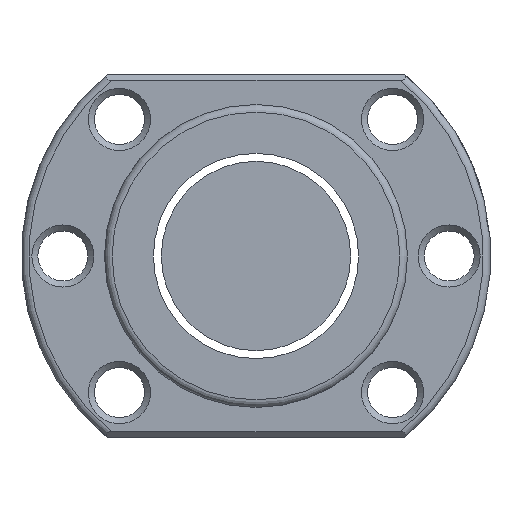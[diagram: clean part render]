
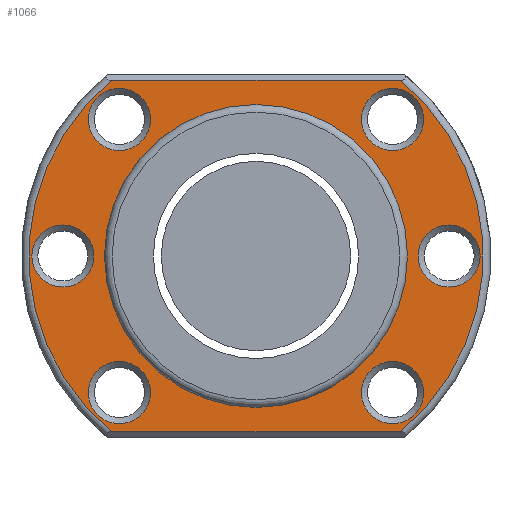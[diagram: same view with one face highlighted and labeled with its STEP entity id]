
A CAD part, left-side view. The second image highlights one B-rep face of the part: STEP entity #1066.
In plain terms, the highlighted planar face has unit normal (-1, 0, 0).
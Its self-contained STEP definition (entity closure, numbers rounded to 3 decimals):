
#29 = CARTESIAN_POINT ( 'NONE',  ( -45., 0., 0. ) ) ;
#51 = DIRECTION ( 'NONE',  ( 0., 0., 1. ) ) ;
#105 = CARTESIAN_POINT ( 'NONE',  ( -45., 0., -20. ) ) ;
#116 = VECTOR ( 'NONE', #2943, 1000. ) ;
#117 = ORIENTED_EDGE ( 'NONE', *, *, #1404, .T. ) ;
#120 = CARTESIAN_POINT ( 'NONE',  ( -45., 18.031, 22.131 ) ) ;
#122 = AXIS2_PLACEMENT_3D ( 'NONE', #2732, #1815, #3008 ) ;
#167 = EDGE_LOOP ( 'NONE', ( #817 ) ) ;
#197 = EDGE_LOOP ( 'NONE', ( #1890 ) ) ;
#250 = CARTESIAN_POINT ( 'NONE',  ( -45., -19.02, 23.2 ) ) ;
#270 = AXIS2_PLACEMENT_3D ( 'NONE', #514, #1504, #2537 ) ;
#308 = AXIS2_PLACEMENT_3D ( 'NONE', #706, #1685, #51 ) ;
#359 = VERTEX_POINT ( 'NONE', #390 ) ;
#373 = VERTEX_POINT ( 'NONE', #2056 ) ;
#390 = CARTESIAN_POINT ( 'NONE',  ( -45., -25.5, 4.1 ) ) ;
#412 = DIRECTION ( 'NONE',  ( 0., 0., 1. ) ) ;
#422 = CARTESIAN_POINT ( 'NONE',  ( -45., -19.02, -23.2 ) ) ;
#458 = PLANE ( 'NONE',  #2494 ) ;
#477 = FACE_BOUND ( 'NONE', #3020, .T. ) ;
#514 = CARTESIAN_POINT ( 'NONE',  ( -45., 0., 0. ) ) ;
#573 = VECTOR ( 'NONE', #3035, 1000. ) ;
#582 = EDGE_CURVE ( 'NONE', #2247, #2326, #2959, .T. ) ;
#601 = CIRCLE ( 'NONE', #2506, 4.1 ) ;
#617 = CIRCLE ( 'NONE', #2832, 20. ) ;
#631 = CIRCLE ( 'NONE', #308, 4.1 ) ;
#640 = VERTEX_POINT ( 'NONE', #120 ) ;
#678 = EDGE_LOOP ( 'NONE', ( #2503, #2037, #117, #2776 ) ) ;
#706 = CARTESIAN_POINT ( 'NONE',  ( -45., -18.031, -18.031 ) ) ;
#729 = AXIS2_PLACEMENT_3D ( 'NONE', #835, #2084, #2283 ) ;
#771 = DIRECTION ( 'NONE',  ( 0., 0., -1. ) ) ;
#817 = ORIENTED_EDGE ( 'NONE', *, *, #2923, .T. ) ;
#818 = CARTESIAN_POINT ( 'NONE',  ( -45., 31., -23.2 ) ) ;
#820 = VERTEX_POINT ( 'NONE', #1350 ) ;
#835 = CARTESIAN_POINT ( 'NONE',  ( -45., -25.5, 0. ) ) ;
#881 = AXIS2_PLACEMENT_3D ( 'NONE', #3056, #1145, #2122 ) ;
#961 = EDGE_CURVE ( 'NONE', #2326, #2613, #2080, .T. ) ;
#1019 = CARTESIAN_POINT ( 'NONE',  ( -45., 31., 23.2 ) ) ;
#1066 = ADVANCED_FACE ( 'NONE', ( #3172, #2688, #1163, #2868, #2127, #1911, #477, #2141 ), #458, .T. ) ;
#1142 = CIRCLE ( 'NONE', #1189, 30. ) ;
#1145 = DIRECTION ( 'NONE',  ( 1., 0., 0. ) ) ;
#1147 = CIRCLE ( 'NONE', #881, 4.1 ) ;
#1163 = FACE_BOUND ( 'NONE', #2156, .T. ) ;
#1189 = AXIS2_PLACEMENT_3D ( 'NONE', #1226, #2440, #1206 ) ;
#1198 = CARTESIAN_POINT ( 'NONE',  ( -45., 31., 0. ) ) ;
#1206 = DIRECTION ( 'NONE',  ( 0., 0., 1. ) ) ;
#1226 = CARTESIAN_POINT ( 'NONE',  ( -45., 0., 0. ) ) ;
#1269 = ORIENTED_EDGE ( 'NONE', *, *, #2098, .T. ) ;
#1350 = CARTESIAN_POINT ( 'NONE',  ( -45., 18.031, -13.931 ) ) ;
#1362 = EDGE_LOOP ( 'NONE', ( #2115 ) ) ;
#1380 = VERTEX_POINT ( 'NONE', #105 ) ;
#1404 = EDGE_CURVE ( 'NONE', #2619, #2247, #1142, .T. ) ;
#1415 = CARTESIAN_POINT ( 'NONE',  ( -45., 19.02, -23.2 ) ) ;
#1427 = DIRECTION ( 'NONE',  ( 0., 0., 1. ) ) ;
#1429 = EDGE_CURVE ( 'NONE', #820, #820, #3088, .T. ) ;
#1503 = ORIENTED_EDGE ( 'NONE', *, *, #1429, .T. ) ;
#1504 = DIRECTION ( 'NONE',  ( -1., 0., 0. ) ) ;
#1528 = DIRECTION ( 'NONE',  ( 1., 0., 0. ) ) ;
#1557 = CIRCLE ( 'NONE', #729, 4.1 ) ;
#1685 = DIRECTION ( 'NONE',  ( 1., 0., 0. ) ) ;
#1811 = EDGE_LOOP ( 'NONE', ( #1503 ) ) ;
#1815 = DIRECTION ( 'NONE',  ( 1., 0., 0. ) ) ;
#1863 = EDGE_CURVE ( 'NONE', #373, #373, #2557, .T. ) ;
#1890 = ORIENTED_EDGE ( 'NONE', *, *, #2785, .T. ) ;
#1895 = CARTESIAN_POINT ( 'NONE',  ( -45., 19.02, 23.2 ) ) ;
#1911 = FACE_BOUND ( 'NONE', #1811, .T. ) ;
#2037 = ORIENTED_EDGE ( 'NONE', *, *, #2903, .T. ) ;
#2056 = CARTESIAN_POINT ( 'NONE',  ( -45., -18.031, 22.131 ) ) ;
#2080 = CIRCLE ( 'NONE', #270, 30. ) ;
#2084 = DIRECTION ( 'NONE',  ( 1., 0., 0. ) ) ;
#2098 = EDGE_CURVE ( 'NONE', #640, #640, #601, .T. ) ;
#2115 = ORIENTED_EDGE ( 'NONE', *, *, #3025, .T. ) ;
#2118 = VERTEX_POINT ( 'NONE', #2602 ) ;
#2122 = DIRECTION ( 'NONE',  ( 0., 0., 1. ) ) ;
#2127 = FACE_BOUND ( 'NONE', #1362, .T. ) ;
#2141 = FACE_OUTER_BOUND ( 'NONE', #678, .T. ) ;
#2156 = EDGE_LOOP ( 'NONE', ( #3002 ) ) ;
#2180 = DIRECTION ( 'NONE',  ( 1., 0., 0. ) ) ;
#2247 = VERTEX_POINT ( 'NONE', #250 ) ;
#2283 = DIRECTION ( 'NONE',  ( 0., 0., 1. ) ) ;
#2301 = CARTESIAN_POINT ( 'NONE',  ( -45., -18.031, -13.931 ) ) ;
#2312 = LINE ( 'NONE', #818, #573 ) ;
#2326 = VERTEX_POINT ( 'NONE', #1895 ) ;
#2330 = DIRECTION ( 'NONE',  ( 0., 0., 1. ) ) ;
#2362 = CARTESIAN_POINT ( 'NONE',  ( -45., 18.031, 18.031 ) ) ;
#2406 = CARTESIAN_POINT ( 'NONE',  ( -45., 18.031, -18.031 ) ) ;
#2440 = DIRECTION ( 'NONE',  ( -1., 0., 0. ) ) ;
#2494 = AXIS2_PLACEMENT_3D ( 'NONE', #1198, #2656, #412 ) ;
#2503 = ORIENTED_EDGE ( 'NONE', *, *, #961, .T. ) ;
#2506 = AXIS2_PLACEMENT_3D ( 'NONE', #2362, #3095, #2330 ) ;
#2528 = AXIS2_PLACEMENT_3D ( 'NONE', #2406, #2180, #1427 ) ;
#2537 = DIRECTION ( 'NONE',  ( 0., 0., 1. ) ) ;
#2557 = CIRCLE ( 'NONE', #122, 4.1 ) ;
#2602 = CARTESIAN_POINT ( 'NONE',  ( -45., 25.5, 4.1 ) ) ;
#2613 = VERTEX_POINT ( 'NONE', #1415 ) ;
#2619 = VERTEX_POINT ( 'NONE', #422 ) ;
#2656 = DIRECTION ( 'NONE',  ( -1., 0., 0. ) ) ;
#2688 = FACE_BOUND ( 'NONE', #167, .T. ) ;
#2724 = ORIENTED_EDGE ( 'NONE', *, *, #3154, .T. ) ;
#2732 = CARTESIAN_POINT ( 'NONE',  ( -45., -18.031, 18.031 ) ) ;
#2776 = ORIENTED_EDGE ( 'NONE', *, *, #582, .T. ) ;
#2785 = EDGE_CURVE ( 'NONE', #2809, #2809, #631, .T. ) ;
#2809 = VERTEX_POINT ( 'NONE', #2301 ) ;
#2832 = AXIS2_PLACEMENT_3D ( 'NONE', #29, #1528, #771 ) ;
#2868 = FACE_BOUND ( 'NONE', #3138, .T. ) ;
#2903 = EDGE_CURVE ( 'NONE', #2613, #2619, #2312, .T. ) ;
#2923 = EDGE_CURVE ( 'NONE', #359, #359, #1557, .T. ) ;
#2943 = DIRECTION ( 'NONE',  ( 0., 1., 0. ) ) ;
#2959 = LINE ( 'NONE', #1019, #116 ) ;
#3002 = ORIENTED_EDGE ( 'NONE', *, *, #1863, .T. ) ;
#3008 = DIRECTION ( 'NONE',  ( 0., 0., 1. ) ) ;
#3020 = EDGE_LOOP ( 'NONE', ( #2724 ) ) ;
#3025 = EDGE_CURVE ( 'NONE', #2118, #2118, #1147, .T. ) ;
#3035 = DIRECTION ( 'NONE',  ( 0., -1., 0. ) ) ;
#3056 = CARTESIAN_POINT ( 'NONE',  ( -45., 25.5, 0. ) ) ;
#3088 = CIRCLE ( 'NONE', #2528, 4.1 ) ;
#3095 = DIRECTION ( 'NONE',  ( 1., 0., 0. ) ) ;
#3138 = EDGE_LOOP ( 'NONE', ( #1269 ) ) ;
#3154 = EDGE_CURVE ( 'NONE', #1380, #1380, #617, .T. ) ;
#3172 = FACE_BOUND ( 'NONE', #197, .T. ) ;
